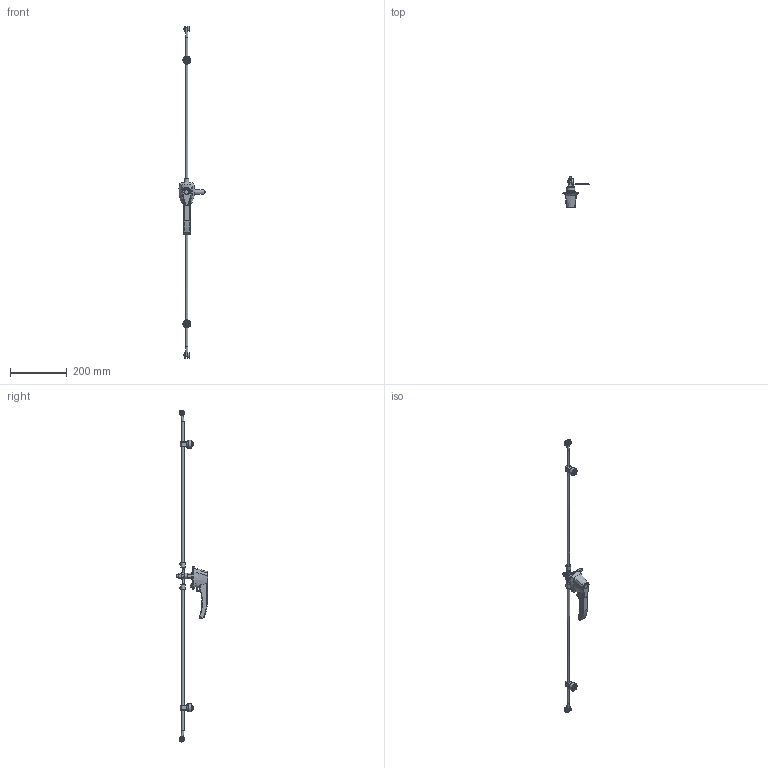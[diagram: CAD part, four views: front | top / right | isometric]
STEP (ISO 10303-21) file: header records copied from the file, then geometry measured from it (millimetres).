
FILE_DESCRIPTION( ( 'Unknown' ), '1' );
FILE_NAME( 'S:/STOCK/9-ACCESSORIES/LOCKS_HANDLES/MHK2.stp', 'Unknown', ( 'Unknown' ), ( 'Unknown' ), 'PSStep 17.0.49', 'Unknown', ' ' );
FILE_SCHEMA( ( 'AUTOMOTIVE_DESIGN { 1 0 10303 214 1 1 1 1 }' ) );
Length unit declared in the file: millimetre
Products named in the file (21): HAN13064; HAN13064_SCREW; HAN13064_NUT; Assem1; LOC13040nut; hanwasher; hanwasher-oa0; LOC13397; LOC13232; LOC13232-oa1; COM54258; LOC13233; ROL18052; COM51490; RVT19006; WAF24955; SPC86071; HAN13046NUT; WAM86622; SCS86889
Assembly tree (31 placements, depth 3):
  Assem1
    LOC13040nut
    hanwasher
    hanwasher-oa0
    LOC13397
    LOC13232
    LOC13232-oa1
    COM54258
    LOC13233  x2
    ROL18052  x4
    COM51490  x2
    RVT19006  x2
    WAF24955  x4
    SPC86071
    HAN13046NUT
    WAM86622  x2
    SCS86889  x2
    HAN13064
      HAN13064
      HAN13064_SCREW
      HAN13064_NUT
Bounding box: 91.38 x 111.71 x 1166.14 mm (x, y, z)
Volume: 275159.1 mm3; surface area: 90033.3 mm2
Topology: 30 solids, 30 shells, 445 faces, 1030 edges, 651 vertices
Faces by surface type: plane 233, cylinder 137, bspline 44, torus 14, sphere 12, cone 5
Full cylindrical faces by diameter (mm): 3.239 x2, 4.763 x8, 4.801 x2, 5.537 x4, 5.69 x2, 5.893 x1, 5.918 x1, 6 x4, 6.35 x2, 6.985 x2, 7.938 x4, 8.128 x1, 8.255 x3, 8.509 x2, 8.89 x2, 9.525 x3, 10 x2, 11.125 x1, 12.7 x4, 13.335 x1, 14.884 x2, 15.24 x1, 15.672 x2, 15.875 x2, 16.891 x2, 17.78 x1, 19.05 x5, 19.169 x1, 21 x2, 28 x2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
Entity records: 20504 total; most frequent: CARTESIAN_POINT 10637, ORIENTED_EDGE 1588, DIRECTION 1569, EDGE_CURVE 794, AXIS2_PLACEMENT_3D 595, VERTEX_POINT 538, EDGE_LOOP 477, FACE_OUTER_BOUND 420
